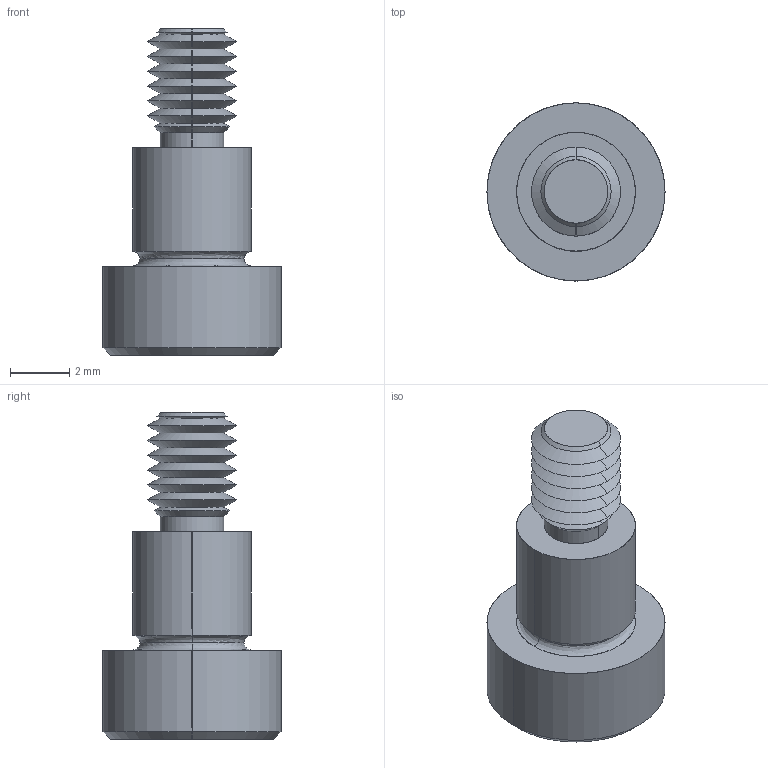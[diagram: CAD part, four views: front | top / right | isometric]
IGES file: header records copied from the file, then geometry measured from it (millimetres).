
Start section: SolidWorks IGES file using analytic representation for surfaces
Global section: file name: C:\Users\IanO\Documents\Temp Folder\GENERAL\SCREW REVISION\P0130_v2\P0130.T5_v2_20220106_IGES\P0130.040-004-T5.igs; native system: SolidWorks 2019; preprocessor: SolidWorks 2019; author: IanO; date: 220106.220444; units: millimetre
Bounding box: 6 x 6 x 11 mm (x, y, z)
Surface area: 235.1 mm2 (no closed solid volume)
Topology: 0 solids, 0 shells, 68 faces, 520 edges, 518 vertices
Faces by surface type: revolution 48, bspline 20
